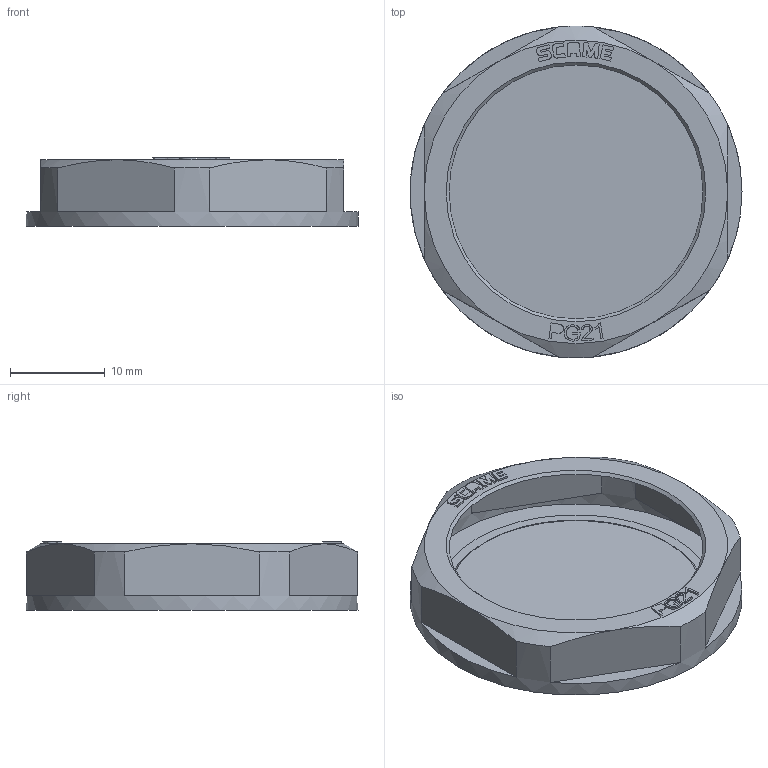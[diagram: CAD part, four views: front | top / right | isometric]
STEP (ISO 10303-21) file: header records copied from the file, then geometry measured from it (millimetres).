
FILE_DESCRIPTION(/* description */ (''),/* implementation_level */ '2;1');
FILE_NAME(/* name */ '4004439.stp',/* time_stamp */ '2016-09-26T09:16:12+02:00',/* author */ (''),/* organization */ (''),/* preprocessor_version */ 'ST-DEVELOPER v16',/* originating_system */ 'SIEMENS PLM Software NX 11.0',/* authorisation */ '');
FILE_SCHEMA (('AUTOMOTIVE_DESIGN { 1 0 10303 214 3 1 1 1 }'));
Length unit declared in the file: millimetre
Products named in the file (1): 4004439_LINKEDEXT_jt
Bounding box: 35 x 35 x 7.2 mm (x, y, z)
Surface area: 2232.7 mm2 (no closed solid volume)
Topology: 0 solids, 4 shells, 79 faces, 348 edges, 269 vertices
Faces by surface type: plane 60, extrusion 8, cylinder 7, cone 4
Full cylindrical faces by diameter (mm): 35 x1
Entity records: 3799 total; most frequent: CARTESIAN_POINT 1171, ORIENTED_EDGE 517, DIRECTION 429, EDGE_CURVE 344, VERTEX_POINT 268, VECTOR 193, LINE 185, B_SPLINE_CURVE_WITH_KNOTS 121
